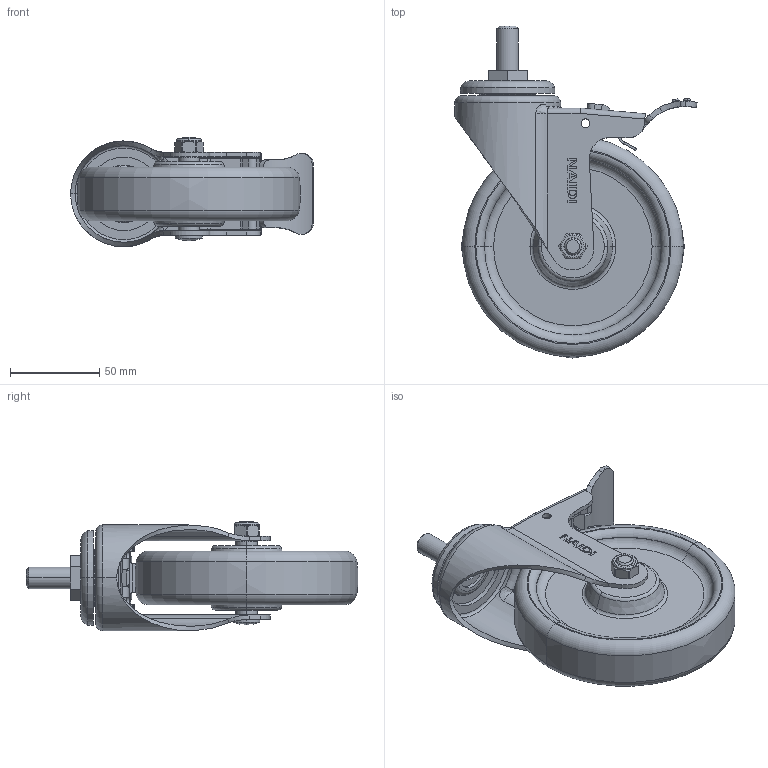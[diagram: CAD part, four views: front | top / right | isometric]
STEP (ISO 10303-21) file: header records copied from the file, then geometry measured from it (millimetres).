
FILE_DESCRIPTION((''),'2;1');
FILE_NAME('C54145L_ASM','2024-10-10T',('Lenovo'),(''),'PRO/ENGINEER BY PARAMETRIC TECHNOLOGY CORPORATION, 2010280','PRO/ENGINEER BY PARAMETRIC TECHNOLOGY CORPORATION, 2010280','');
FILE_SCHEMA(('CONFIG_CONTROL_DESIGN'));
Length unit declared in the file: millimetre
Products named in the file (11): C545-12; 550-23M12X25; 500-36; C540-03; C545-906; 500-54; 5710-020; 5710-031; 540-14; 540-13; C54145L_ASM
Assembly tree (11 placements, depth 2):
  C54145L_ASM
    C545-12
    550-23M12X25
    500-36  x2
    C540-03
    C545-906
    500-54
    5710-020
    5710-031
    540-14
    540-13
Bounding box: 135.81 x 185.92 x 61.4 mm (x, y, z)
Volume: 337914 mm3; surface area: 91409.2 mm2
Topology: 17 solids, 17 shells, 504 faces, 1150 edges, 691 vertices
Faces by surface type: plane 237, cylinder 154, torus 34, bspline 32, cone 32, extrusion 13, sphere 2
Entity records: 16817 total; most frequent: CARTESIAN_POINT 5476, DIRECTION 2329, ORIENTED_EDGE 2272, EDGE_CURVE 1136, AXIS2_PLACEMENT_3D 839, VERTEX_POINT 683, VECTOR 651, LINE 638
